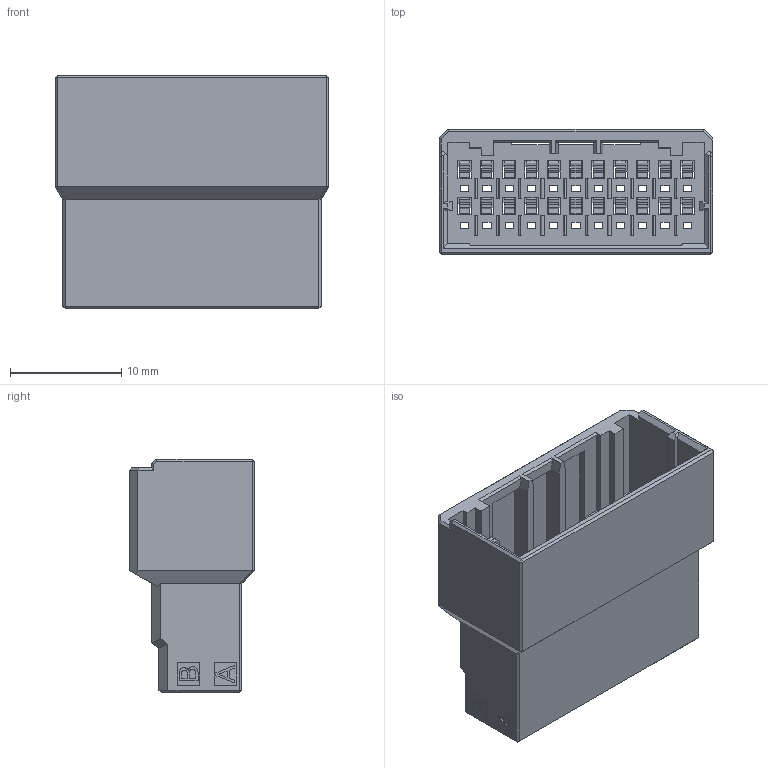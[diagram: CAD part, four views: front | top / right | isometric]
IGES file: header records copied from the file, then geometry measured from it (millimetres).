
Start section: ZWSOFT
Global section: file name: WD2000-2HK11B001W.igs; native system: ZW3D; preprocessor: 1.0; author: ZW3D; organization: ZWSOFT; date: 231204.154316; units: millimetre
Bounding box: 24.6 x 11.3 x 21 mm (x, y, z)
Surface area: 5041.9 mm2 (no closed solid volume)
Topology: 0 solids, 0 shells, 1473 faces, 8168 edges, 8164 vertices
Faces by surface type: bspline 1473
